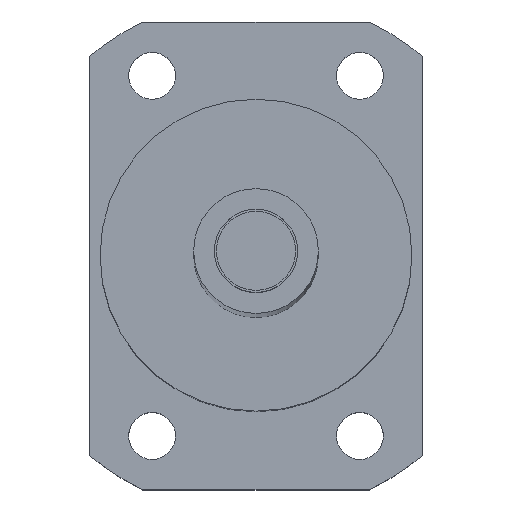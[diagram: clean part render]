
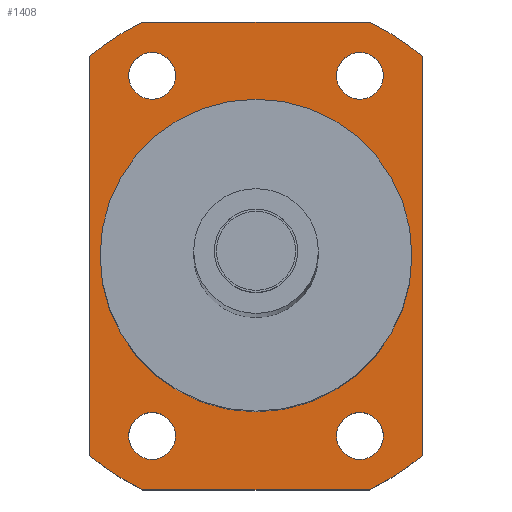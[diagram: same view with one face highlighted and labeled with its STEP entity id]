
A CAD part, top view. The second image highlights one B-rep face of the part: STEP entity #1408.
In plain terms, the highlighted planar face has unit normal (0, 0, 1).
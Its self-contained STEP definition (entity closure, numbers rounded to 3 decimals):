
#328=CARTESIAN_POINT('',(10.,17.321,300.));
#329=DIRECTION('',(0.,0.,-1.));
#330=DIRECTION('',(1.,0.,0.));
#331=AXIS2_PLACEMENT_3D('',#328,#329,#330);
#333=CARTESIAN_POINT('',(10.,17.321,300.));
#334=DIRECTION('',(0.,0.,-1.));
#335=DIRECTION('',(-1.,0.,0.));
#336=AXIS2_PLACEMENT_3D('',#333,#334,#335);
#338=CARTESIAN_POINT('',(-10.,17.321,300.));
#339=DIRECTION('',(0.,0.,-1.));
#340=DIRECTION('',(1.,0.,0.));
#341=AXIS2_PLACEMENT_3D('',#338,#339,#340);
#343=CARTESIAN_POINT('',(-10.,17.321,300.));
#344=DIRECTION('',(0.,0.,-1.));
#345=DIRECTION('',(-1.,0.,0.));
#346=AXIS2_PLACEMENT_3D('',#343,#344,#345);
#348=CARTESIAN_POINT('',(10.,-17.321,300.));
#349=DIRECTION('',(0.,0.,-1.));
#350=DIRECTION('',(1.,0.,0.));
#351=AXIS2_PLACEMENT_3D('',#348,#349,#350);
#353=CARTESIAN_POINT('',(10.,-17.321,300.));
#354=DIRECTION('',(0.,0.,-1.));
#355=DIRECTION('',(-1.,0.,0.));
#356=AXIS2_PLACEMENT_3D('',#353,#354,#355);
#358=CARTESIAN_POINT('',(-10.,-17.321,300.));
#359=DIRECTION('',(0.,0.,-1.));
#360=DIRECTION('',(1.,0.,0.));
#361=AXIS2_PLACEMENT_3D('',#358,#359,#360);
#363=CARTESIAN_POINT('',(-10.,-17.321,300.));
#364=DIRECTION('',(0.,0.,-1.));
#365=DIRECTION('',(-1.,0.,0.));
#366=AXIS2_PLACEMENT_3D('',#363,#364,#365);
#368=CARTESIAN_POINT('',(0.,0.,300.));
#369=DIRECTION('',(0.,0.,1.));
#370=DIRECTION('',(1.,0.,0.));
#371=AXIS2_PLACEMENT_3D('',#368,#369,#370);
#373=CARTESIAN_POINT('',(0.,0.,300.));
#374=DIRECTION('',(0.,0.,1.));
#375=DIRECTION('',(-1.,0.,0.));
#376=AXIS2_PLACEMENT_3D('',#373,#374,#375);
#378=DIRECTION('',(1.,0.,0.));
#379=VECTOR('',#378,21.794);
#380=CARTESIAN_POINT('',(-10.897,22.5,300.));
#381=LINE('',#380,#379);
#382=CARTESIAN_POINT('',(0.,0.,300.));
#383=DIRECTION('',(0.,0.,1.));
#384=DIRECTION('',(0.64,0.768,0.));
#385=AXIS2_PLACEMENT_3D('',#382,#383,#384);
#387=DIRECTION('',(0.,1.,0.));
#388=VECTOR('',#387,38.419);
#389=CARTESIAN_POINT('',(16.,-19.209,300.));
#390=LINE('',#389,#388);
#391=CARTESIAN_POINT('',(0.,0.,300.));
#392=DIRECTION('',(0.,0.,1.));
#393=DIRECTION('',(0.436,-0.9,0.));
#394=AXIS2_PLACEMENT_3D('',#391,#392,#393);
#396=DIRECTION('',(1.,0.,0.));
#397=VECTOR('',#396,21.794);
#398=CARTESIAN_POINT('',(-10.897,-22.5,300.));
#399=LINE('',#398,#397);
#400=CARTESIAN_POINT('',(0.,0.,300.));
#401=DIRECTION('',(0.,0.,1.));
#402=DIRECTION('',(-0.64,-0.768,0.));
#403=AXIS2_PLACEMENT_3D('',#400,#401,#402);
#405=DIRECTION('',(0.,-1.,0.));
#406=VECTOR('',#405,38.419);
#407=CARTESIAN_POINT('',(-16.,19.209,300.));
#408=LINE('',#407,#406);
#409=CARTESIAN_POINT('',(0.,0.,300.));
#410=DIRECTION('',(0.,0.,1.));
#411=DIRECTION('',(-0.436,0.9,0.));
#412=AXIS2_PLACEMENT_3D('',#409,#410,#411);
#721=CARTESIAN_POINT('',(12.25,17.321,300.));
#722=CARTESIAN_POINT('',(7.75,17.321,300.));
#723=VERTEX_POINT('',#721);
#724=VERTEX_POINT('',#722);
#725=CARTESIAN_POINT('',(-7.75,17.321,300.));
#726=CARTESIAN_POINT('',(-12.25,17.321,300.));
#727=VERTEX_POINT('',#725);
#728=VERTEX_POINT('',#726);
#729=CARTESIAN_POINT('',(12.25,-17.321,300.));
#730=CARTESIAN_POINT('',(7.75,-17.321,300.));
#731=VERTEX_POINT('',#729);
#732=VERTEX_POINT('',#730);
#733=CARTESIAN_POINT('',(-7.75,-17.321,300.));
#734=CARTESIAN_POINT('',(-12.25,-17.321,300.));
#735=VERTEX_POINT('',#733);
#736=VERTEX_POINT('',#734);
#737=CARTESIAN_POINT('',(-16.,19.209,300.));
#738=CARTESIAN_POINT('',(-16.,-19.209,300.));
#739=VERTEX_POINT('',#737);
#740=VERTEX_POINT('',#738);
#741=CARTESIAN_POINT('',(16.,-19.209,300.));
#742=CARTESIAN_POINT('',(16.,19.209,300.));
#743=VERTEX_POINT('',#741);
#744=VERTEX_POINT('',#742);
#753=CARTESIAN_POINT('',(15.,0.,300.));
#754=CARTESIAN_POINT('',(-15.,0.,300.));
#755=VERTEX_POINT('',#753);
#756=VERTEX_POINT('',#754);
#829=CARTESIAN_POINT('',(-10.897,22.5,300.));
#830=CARTESIAN_POINT('',(10.897,22.5,300.));
#831=VERTEX_POINT('',#829);
#832=VERTEX_POINT('',#830);
#833=CARTESIAN_POINT('',(-10.897,-22.5,300.));
#834=CARTESIAN_POINT('',(10.897,-22.5,300.));
#835=VERTEX_POINT('',#833);
#836=VERTEX_POINT('',#834);
#1357=CARTESIAN_POINT('',(0.,0.,300.));
#1358=DIRECTION('',(0.,0.,1.));
#1359=DIRECTION('',(1.,0.,0.));
#1360=AXIS2_PLACEMENT_3D('',#1357,#1358,#1359);
#1361=PLANE('',#1360);
#1363=ORIENTED_EDGE('',*,*,#1362,.T.);
#1365=ORIENTED_EDGE('',*,*,#1364,.F.);
#1367=ORIENTED_EDGE('',*,*,#1366,.F.);
#1369=ORIENTED_EDGE('',*,*,#1368,.F.);
#1371=ORIENTED_EDGE('',*,*,#1370,.F.);
#1373=ORIENTED_EDGE('',*,*,#1372,.F.);
#1375=ORIENTED_EDGE('',*,*,#1374,.F.);
#1377=ORIENTED_EDGE('',*,*,#1376,.F.);
#1378=EDGE_LOOP('',(#1363,#1365,#1367,#1369,#1371,#1373,#1375,#1377));
#1379=FACE_OUTER_BOUND('',#1378,.F.);
#1380=ORIENTED_EDGE('',*,*,#1337,.F.);
#1381=ORIENTED_EDGE('',*,*,#1351,.F.);
#1382=EDGE_LOOP('',(#1380,#1381));
#1383=FACE_BOUND('',#1382,.F.);
#1385=ORIENTED_EDGE('',*,*,#1384,.F.);
#1387=ORIENTED_EDGE('',*,*,#1386,.F.);
#1388=EDGE_LOOP('',(#1385,#1387));
#1389=FACE_BOUND('',#1388,.F.);
#1391=ORIENTED_EDGE('',*,*,#1390,.F.);
#1393=ORIENTED_EDGE('',*,*,#1392,.F.);
#1394=EDGE_LOOP('',(#1391,#1393));
#1395=FACE_BOUND('',#1394,.F.);
#1397=ORIENTED_EDGE('',*,*,#1396,.F.);
#1399=ORIENTED_EDGE('',*,*,#1398,.F.);
#1400=EDGE_LOOP('',(#1397,#1399));
#1401=FACE_BOUND('',#1400,.F.);
#1403=ORIENTED_EDGE('',*,*,#1402,.T.);
#1405=ORIENTED_EDGE('',*,*,#1404,.T.);
#1406=EDGE_LOOP('',(#1403,#1405));
#1407=FACE_BOUND('',#1406,.F.);
#1408=ADVANCED_FACE('',(#1379,#1383,#1389,#1395,#1401,#1407),#1361,.T.);
#332=CIRCLE('',#331,2.25);
#337=CIRCLE('',#336,2.25);
#342=CIRCLE('',#341,2.25);
#347=CIRCLE('',#346,2.25);
#352=CIRCLE('',#351,2.25);
#357=CIRCLE('',#356,2.25);
#362=CIRCLE('',#361,2.25);
#367=CIRCLE('',#366,2.25);
#372=CIRCLE('',#371,15.);
#377=CIRCLE('',#376,15.);
#386=CIRCLE('',#385,25.);
#395=CIRCLE('',#394,25.);
#404=CIRCLE('',#403,25.);
#413=CIRCLE('',#412,25.);
#1337=EDGE_CURVE('',#723,#724,#332,.T.);
#1351=EDGE_CURVE('',#724,#723,#337,.T.);
#1362=EDGE_CURVE('',#831,#832,#381,.T.);
#1364=EDGE_CURVE('',#744,#832,#386,.T.);
#1366=EDGE_CURVE('',#743,#744,#390,.T.);
#1368=EDGE_CURVE('',#836,#743,#395,.T.);
#1370=EDGE_CURVE('',#835,#836,#399,.T.);
#1372=EDGE_CURVE('',#740,#835,#404,.T.);
#1374=EDGE_CURVE('',#739,#740,#408,.T.);
#1376=EDGE_CURVE('',#831,#739,#413,.T.);
#1384=EDGE_CURVE('',#727,#728,#342,.T.);
#1386=EDGE_CURVE('',#728,#727,#347,.T.);
#1390=EDGE_CURVE('',#731,#732,#352,.T.);
#1392=EDGE_CURVE('',#732,#731,#357,.T.);
#1396=EDGE_CURVE('',#735,#736,#362,.T.);
#1398=EDGE_CURVE('',#736,#735,#367,.T.);
#1402=EDGE_CURVE('',#755,#756,#372,.T.);
#1404=EDGE_CURVE('',#756,#755,#377,.T.);
